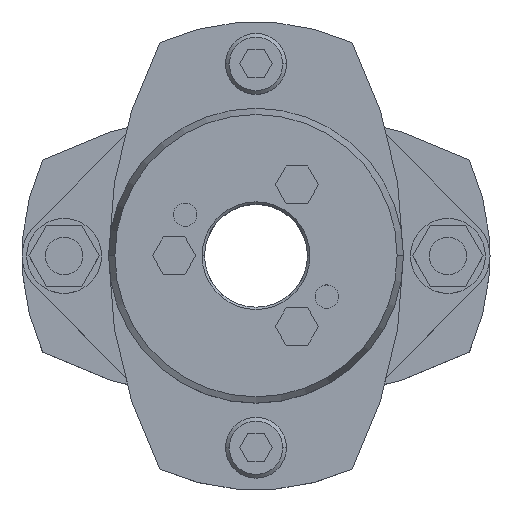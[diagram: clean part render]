
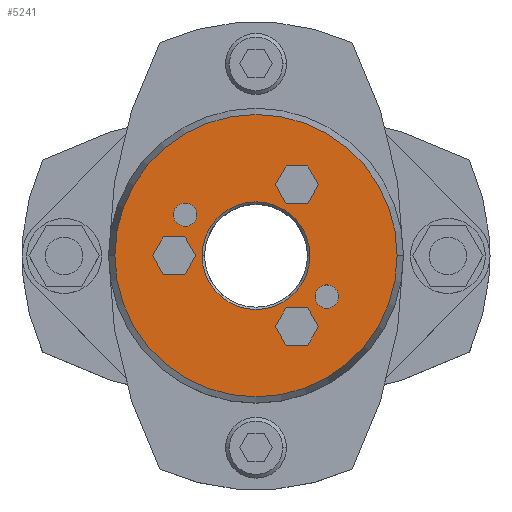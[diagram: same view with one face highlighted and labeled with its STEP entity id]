
A CAD part, top view. The second image highlights one B-rep face of the part: STEP entity #5241.
In plain terms, the highlighted planar face has unit normal (0, 0, 1).
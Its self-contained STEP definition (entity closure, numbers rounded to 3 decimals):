
#857=CARTESIAN_POINT('',(-11.5,0.,42.0));
#858=VERTEX_POINT('',#857);
#874=CARTESIAN_POINT('',(11.5,0.,42.0));
#875=VERTEX_POINT('',#874);
#882=CARTESIAN_POINT('',(0.,0.,42.0));
#883=DIRECTION('',(0.0,0.0,1.0));
#884=DIRECTION('',(-1.0,0.0,0.0));
#885=AXIS2_PLACEMENT_3D('',#882,#883,#884);
#886=CIRCLE('',#885,11.5);
#887=EDGE_CURVE('',#875,#858,#886,.T.);
#1045=CARTESIAN_POINT('',(30.16,0.,42.0));
#1046=VERTEX_POINT('',#1045);
#1053=CARTESIAN_POINT('',(-30.16,0.,42.0));
#1054=VERTEX_POINT('',#1053);
#1055=CARTESIAN_POINT('',(0.,0.,42.0));
#1056=DIRECTION('',(0.0,0.0,-1.0));
#1057=DIRECTION('',(1.0,0.0,0.0));
#1058=AXIS2_PLACEMENT_3D('',#1055,#1056,#1057);
#1059=CIRCLE('',#1058,30.16);
#1060=EDGE_CURVE('',#1046,#1054,#1059,.T.);
#1155=CARTESIAN_POINT('',(-17.655,8.75,42.0));
#1156=VERTEX_POINT('',#1155);
#1172=CARTESIAN_POINT('',(-12.655,8.75,42.0));
#1173=VERTEX_POINT('',#1172);
#1180=CARTESIAN_POINT('',(-15.155,8.75,42.0));
#1181=DIRECTION('',(0.0,0.0,-1.0));
#1182=DIRECTION('',(-1.0,0.0,0.0));
#1183=AXIS2_PLACEMENT_3D('',#1180,#1181,#1182);
#1184=CIRCLE('',#1183,2.5);
#1185=EDGE_CURVE('',#1156,#1173,#1184,.T.);
#1197=CARTESIAN_POINT('',(12.655,-8.75,42.0));
#1198=VERTEX_POINT('',#1197);
#1214=CARTESIAN_POINT('',(17.655,-8.75,42.0));
#1215=VERTEX_POINT('',#1214);
#1222=CARTESIAN_POINT('',(15.155,-8.75,42.0));
#1223=DIRECTION('',(0.0,0.0,-1.0));
#1224=DIRECTION('',(-1.0,0.0,0.0));
#1225=AXIS2_PLACEMENT_3D('',#1222,#1223,#1224);
#1226=CIRCLE('',#1225,2.5);
#1227=EDGE_CURVE('',#1198,#1215,#1226,.T.);
#4268=CARTESIAN_POINT('',(15.155,-8.75,42.0));
#4269=DIRECTION('',(0.0,0.0,-1.0));
#4270=DIRECTION('',(-1.0,0.0,0.0));
#4271=AXIS2_PLACEMENT_3D('',#4268,#4269,#4270);
#4272=CIRCLE('',#4271,2.5);
#4273=EDGE_CURVE('',#1215,#1198,#4272,.T.);
#4302=CARTESIAN_POINT('',(-15.155,8.75,42.0));
#4303=DIRECTION('',(0.0,0.0,-1.0));
#4304=DIRECTION('',(-1.0,0.0,0.0));
#4305=AXIS2_PLACEMENT_3D('',#4302,#4303,#4304);
#4306=CIRCLE('',#4305,2.5);
#4307=EDGE_CURVE('',#1173,#1156,#4306,.T.);
#4345=CARTESIAN_POINT('',(4.131,-15.155,42.0));
#4346=VERTEX_POINT('',#4345);
#4353=CARTESIAN_POINT('',(6.441,-19.155,42.0));
#4354=VERTEX_POINT('',#4353);
#4355=CARTESIAN_POINT('',(6.441,-19.155,42.0));
#4356=DIRECTION('',(-0.5,0.866,0.0));
#4357=VECTOR('',#4356,4.619);
#4358=LINE('',#4355,#4357);
#4359=EDGE_CURVE('',#4354,#4346,#4358,.T.);
#4383=CARTESIAN_POINT('',(6.441,-11.155,42.0));
#4384=VERTEX_POINT('',#4383);
#4391=CARTESIAN_POINT('',(4.131,-15.155,42.0));
#4392=DIRECTION('',(0.5,0.866,0.0));
#4393=VECTOR('',#4392,4.619);
#4394=LINE('',#4391,#4393);
#4395=EDGE_CURVE('',#4346,#4384,#4394,.T.);
#4414=CARTESIAN_POINT('',(11.059,-11.155,42.0));
#4415=VERTEX_POINT('',#4414);
#4422=CARTESIAN_POINT('',(6.441,-11.155,42.0));
#4423=DIRECTION('',(1.0,0.0,0.0));
#4424=VECTOR('',#4423,4.619);
#4425=LINE('',#4422,#4424);
#4426=EDGE_CURVE('',#4384,#4415,#4425,.T.);
#4445=CARTESIAN_POINT('',(13.369,-15.155,42.0));
#4446=VERTEX_POINT('',#4445);
#4453=CARTESIAN_POINT('',(11.059,-11.155,42.0));
#4454=DIRECTION('',(0.5,-0.866,0.0));
#4455=VECTOR('',#4454,4.619);
#4456=LINE('',#4453,#4455);
#4457=EDGE_CURVE('',#4415,#4446,#4456,.T.);
#4476=CARTESIAN_POINT('',(11.059,-19.155,42.0));
#4477=VERTEX_POINT('',#4476);
#4484=CARTESIAN_POINT('',(13.369,-15.155,42.0));
#4485=DIRECTION('',(-0.5,-0.866,0.0));
#4486=VECTOR('',#4485,4.619);
#4487=LINE('',#4484,#4486);
#4488=EDGE_CURVE('',#4446,#4477,#4487,.T.);
#4506=CARTESIAN_POINT('',(11.059,-19.155,42.0));
#4507=DIRECTION('',(-1.0,0.0,0.0));
#4508=VECTOR('',#4507,4.619);
#4509=LINE('',#4506,#4508);
#4510=EDGE_CURVE('',#4477,#4354,#4509,.T.);
#4545=CARTESIAN_POINT('',(-22.119,0.,42.0));
#4546=VERTEX_POINT('',#4545);
#4553=CARTESIAN_POINT('',(-19.809,-4.,42.0));
#4554=VERTEX_POINT('',#4553);
#4555=CARTESIAN_POINT('',(-19.809,-4.,42.0));
#4556=DIRECTION('',(-0.5,0.866,0.0));
#4557=VECTOR('',#4556,4.619);
#4558=LINE('',#4555,#4557);
#4559=EDGE_CURVE('',#4554,#4546,#4558,.T.);
#4583=CARTESIAN_POINT('',(-19.809,4.,42.0));
#4584=VERTEX_POINT('',#4583);
#4591=CARTESIAN_POINT('',(-22.119,0.,42.0));
#4592=DIRECTION('',(0.5,0.866,0.0));
#4593=VECTOR('',#4592,4.619);
#4594=LINE('',#4591,#4593);
#4595=EDGE_CURVE('',#4546,#4584,#4594,.T.);
#4614=CARTESIAN_POINT('',(-15.191,4.,42.0));
#4615=VERTEX_POINT('',#4614);
#4622=CARTESIAN_POINT('',(-19.809,4.,42.0));
#4623=DIRECTION('',(1.0,0.0,0.0));
#4624=VECTOR('',#4623,4.619);
#4625=LINE('',#4622,#4624);
#4626=EDGE_CURVE('',#4584,#4615,#4625,.T.);
#4645=CARTESIAN_POINT('',(-12.881,0.,42.0));
#4646=VERTEX_POINT('',#4645);
#4653=CARTESIAN_POINT('',(-15.191,4.,42.0));
#4654=DIRECTION('',(0.5,-0.866,0.0));
#4655=VECTOR('',#4654,4.619);
#4656=LINE('',#4653,#4655);
#4657=EDGE_CURVE('',#4615,#4646,#4656,.T.);
#4676=CARTESIAN_POINT('',(-15.191,-4.,42.0));
#4677=VERTEX_POINT('',#4676);
#4684=CARTESIAN_POINT('',(-12.881,0.,42.0));
#4685=DIRECTION('',(-0.5,-0.866,0.0));
#4686=VECTOR('',#4685,4.619);
#4687=LINE('',#4684,#4686);
#4688=EDGE_CURVE('',#4646,#4677,#4687,.T.);
#4706=CARTESIAN_POINT('',(-15.191,-4.,42.0));
#4707=DIRECTION('',(-1.0,0.0,0.0));
#4708=VECTOR('',#4707,4.619);
#4709=LINE('',#4706,#4708);
#4710=EDGE_CURVE('',#4677,#4554,#4709,.T.);
#4745=CARTESIAN_POINT('',(4.131,15.155,42.0));
#4746=VERTEX_POINT('',#4745);
#4753=CARTESIAN_POINT('',(6.441,11.155,42.0));
#4754=VERTEX_POINT('',#4753);
#4755=CARTESIAN_POINT('',(6.441,11.155,42.0));
#4756=DIRECTION('',(-0.5,0.866,0.0));
#4757=VECTOR('',#4756,4.619);
#4758=LINE('',#4755,#4757);
#4759=EDGE_CURVE('',#4754,#4746,#4758,.T.);
#4783=CARTESIAN_POINT('',(6.441,19.155,42.0));
#4784=VERTEX_POINT('',#4783);
#4791=CARTESIAN_POINT('',(4.131,15.155,42.0));
#4792=DIRECTION('',(0.5,0.866,0.0));
#4793=VECTOR('',#4792,4.619);
#4794=LINE('',#4791,#4793);
#4795=EDGE_CURVE('',#4746,#4784,#4794,.T.);
#4814=CARTESIAN_POINT('',(11.059,19.155,42.0));
#4815=VERTEX_POINT('',#4814);
#4822=CARTESIAN_POINT('',(6.441,19.155,42.0));
#4823=DIRECTION('',(1.0,0.0,0.0));
#4824=VECTOR('',#4823,4.619);
#4825=LINE('',#4822,#4824);
#4826=EDGE_CURVE('',#4784,#4815,#4825,.T.);
#4845=CARTESIAN_POINT('',(13.369,15.155,42.0));
#4846=VERTEX_POINT('',#4845);
#4853=CARTESIAN_POINT('',(11.059,19.155,42.0));
#4854=DIRECTION('',(0.5,-0.866,0.0));
#4855=VECTOR('',#4854,4.619);
#4856=LINE('',#4853,#4855);
#4857=EDGE_CURVE('',#4815,#4846,#4856,.T.);
#4876=CARTESIAN_POINT('',(11.059,11.155,42.0));
#4877=VERTEX_POINT('',#4876);
#4884=CARTESIAN_POINT('',(13.369,15.155,42.0));
#4885=DIRECTION('',(-0.5,-0.866,0.0));
#4886=VECTOR('',#4885,4.619);
#4887=LINE('',#4884,#4886);
#4888=EDGE_CURVE('',#4846,#4877,#4887,.T.);
#4906=CARTESIAN_POINT('',(11.059,11.155,42.0));
#4907=DIRECTION('',(-1.0,0.0,0.0));
#4908=VECTOR('',#4907,4.619);
#4909=LINE('',#4906,#4908);
#4910=EDGE_CURVE('',#4877,#4754,#4909,.T.);
#5180=CARTESIAN_POINT('',(0.,0.,42.0));
#5181=DIRECTION('',(0.0,0.0,-1.0));
#5182=DIRECTION('',(1.0,0.0,0.0));
#5183=AXIS2_PLACEMENT_3D('',#5180,#5181,#5182);
#5184=CIRCLE('',#5183,30.16);
#5185=EDGE_CURVE('',#1054,#1046,#5184,.T.);
#5190=CARTESIAN_POINT('',(-2.864,0.,42.0));
#5191=DIRECTION('',(0.0,0.0,1.0));
#5192=DIRECTION('',(-1.0,0.0,0.0));
#5193=AXIS2_PLACEMENT_3D('',#5190,#5191,#5192);
#5194=PLANE('',#5193);
#5195=ORIENTED_EDGE('',*,*,#5185,.F.);
#5196=ORIENTED_EDGE('',*,*,#1060,.F.);
#5197=EDGE_LOOP('',(#5195,#5196));
#5198=FACE_OUTER_BOUND('',#5197,.T.);
#5199=ORIENTED_EDGE('',*,*,#1227,.T.);
#5200=ORIENTED_EDGE('',*,*,#4273,.T.);
#5201=EDGE_LOOP('',(#5199,#5200));
#5202=FACE_BOUND('',#5201,.T.);
#5203=ORIENTED_EDGE('',*,*,#1185,.T.);
#5204=ORIENTED_EDGE('',*,*,#4307,.T.);
#5205=EDGE_LOOP('',(#5203,#5204));
#5206=FACE_BOUND('',#5205,.T.);
#5207=ORIENTED_EDGE('',*,*,#4359,.T.);
#5208=ORIENTED_EDGE('',*,*,#4395,.T.);
#5209=ORIENTED_EDGE('',*,*,#4426,.T.);
#5210=ORIENTED_EDGE('',*,*,#4457,.T.);
#5211=ORIENTED_EDGE('',*,*,#4488,.T.);
#5212=ORIENTED_EDGE('',*,*,#4510,.T.);
#5213=EDGE_LOOP('',(#5207,#5208,#5209,#5210,#5211,#5212));
#5214=FACE_BOUND('',#5213,.T.);
#5215=ORIENTED_EDGE('',*,*,#4559,.T.);
#5216=ORIENTED_EDGE('',*,*,#4595,.T.);
#5217=ORIENTED_EDGE('',*,*,#4626,.T.);
#5218=ORIENTED_EDGE('',*,*,#4657,.T.);
#5219=ORIENTED_EDGE('',*,*,#4688,.T.);
#5220=ORIENTED_EDGE('',*,*,#4710,.T.);
#5221=EDGE_LOOP('',(#5215,#5216,#5217,#5218,#5219,#5220));
#5222=FACE_BOUND('',#5221,.T.);
#5223=ORIENTED_EDGE('',*,*,#4759,.T.);
#5224=ORIENTED_EDGE('',*,*,#4795,.T.);
#5225=ORIENTED_EDGE('',*,*,#4826,.T.);
#5226=ORIENTED_EDGE('',*,*,#4857,.T.);
#5227=ORIENTED_EDGE('',*,*,#4888,.T.);
#5228=ORIENTED_EDGE('',*,*,#4910,.T.);
#5229=EDGE_LOOP('',(#5223,#5224,#5225,#5226,#5227,#5228));
#5230=FACE_BOUND('',#5229,.T.);
#5231=ORIENTED_EDGE('',*,*,#887,.F.);
#5232=CARTESIAN_POINT('',(0.,0.,42.0));
#5233=DIRECTION('',(0.0,0.0,1.0));
#5234=DIRECTION('',(-1.0,0.0,0.0));
#5235=AXIS2_PLACEMENT_3D('',#5232,#5233,#5234);
#5236=CIRCLE('',#5235,11.5);
#5237=EDGE_CURVE('',#858,#875,#5236,.T.);
#5238=ORIENTED_EDGE('',*,*,#5237,.F.);
#5239=EDGE_LOOP('',(#5231,#5238));
#5240=FACE_BOUND('',#5239,.T.);
#5241=ADVANCED_FACE('',(#5198,#5202,#5206,#5214,#5222,#5230,#5240),#5194,.T.);
